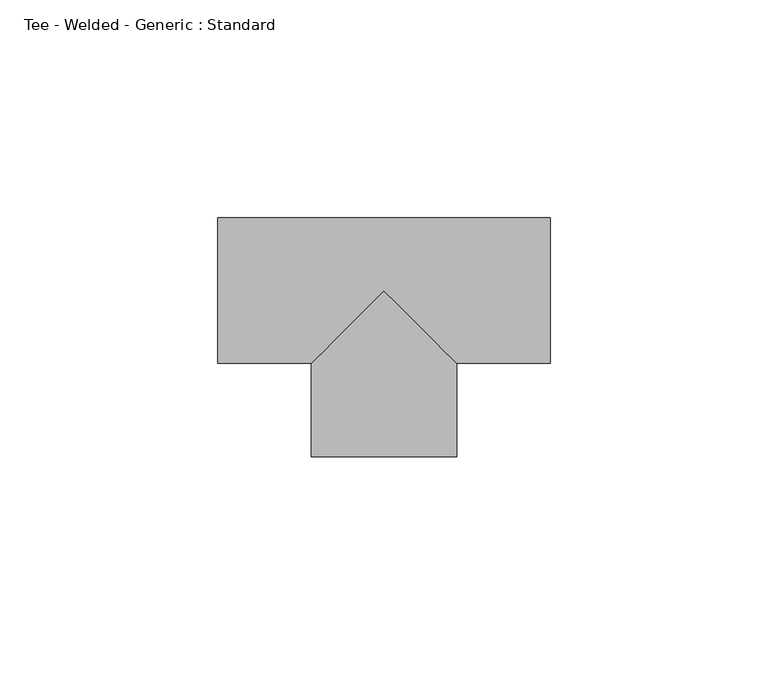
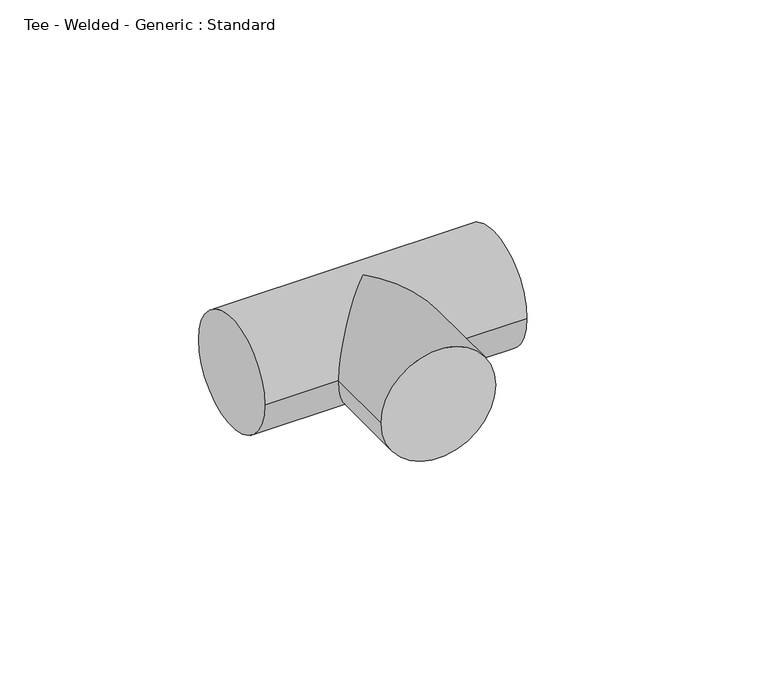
"""IFC4 building model written with IfcOpenShell, lengths in millimetres: pipe fitting geometry, Tee - Welded - Generic : Standard."""

from ifc_helpers import new_model, si_unit, frame, origin, place, context, project, spatial, circle_curve, ellipse_curve, source, transform, mapped, element, save
from ifc_brep_helpers import plane_surface, cylinder_surface, advanced_brep


def tee_welded_generic_standard_ab12e525(model_context):
    return source(origin(), model_context, "Body", "AdvancedBrep", [
        advanced_brep(
        [(-38.1, -16.66875, 0.0), (-38.1, 16.66875, 0.0), (38.1, -16.66875, 0.0), (38.1, 16.66875, 0.0), (-16.6697924, -16.66875, 0.0), (0.0, 0.0, 16.66875), (16.6677077, -16.66875, 0.0), (0.0, 0.0, -16.66875), (-16.6711325, -38.0989576, 0.0), (16.6663674, -38.1010423, 0.0)],
        [
            (0, 1, circle_curve(frame((-38.1, 0.0, 0.0), z_axis=(-1.0, 0.0, 0.0), x_axis=(0.0, 1.0, 0.0)), 16.66875)),
            (1, 0, circle_curve(frame((-38.1, 0.0, 0.0), z_axis=(-1.0, 0.0, 0.0), x_axis=(0.0, 1.0, 0.0)), 16.66875)),
            (2, 3, circle_curve(frame((38.1, 0.0, 0.0), z_axis=(1.0, 0.0, 0.0), x_axis=(0.0, 1.0, 0.0)), 16.66875)),
            (3, 2, circle_curve(frame((38.1, 0.0, 0.0), z_axis=(1.0, 0.0, 0.0), x_axis=(0.0, 1.0, 0.0)), 16.66875)),
            (0, 4),
            (4, 5, ellipse_curve(frame((0.0, 0.0, 0.0), z_axis=(-0.7070846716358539, 0.7071288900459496, 0.0), x_axis=(-0.7071288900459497, -0.7070846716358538, 0.0)), 23.5739094, 16.66875)),
            (5, 6, ellipse_curve(frame((0.0, 0.0, 0.0), z_axis=(0.7071288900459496, 0.707084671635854, 0.0), x_axis=(-0.7070846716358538, 0.7071288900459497, 0.0)), 23.5724353, 16.66875)),
            (6, 2),
            (3, 1),
            (6, 7, ellipse_curve(frame((0.0, 0.0, 0.0), z_axis=(0.7071288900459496, 0.707084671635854, 0.0), x_axis=(-0.7070846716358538, 0.7071288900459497, 0.0)), 23.5724353, 16.66875)),
            (7, 4, ellipse_curve(frame((0.0, 0.0, 0.0), z_axis=(-0.7070846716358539, 0.7071288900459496, 0.0), x_axis=(-0.7071288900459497, -0.7070846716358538, 0.0)), 23.5739094, 16.66875)),
            (8, 9, circle_curve(frame((-0.0023826, -38.0999999, 0.0), z_axis=(-6.253427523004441e-05, -0.9999999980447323, 0.0), x_axis=(0.9999999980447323, -6.253427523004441e-05, 0.0)), 16.66875)),
            (9, 8, circle_curve(frame((-0.0023826, -38.0999999, 0.0), z_axis=(-6.253427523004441e-05, -0.9999999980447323, 0.0), x_axis=(0.9999999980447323, -6.253427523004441e-05, 0.0)), 16.66875)),
            (9, 6),
            (4, 8),
        ],
        [
            plane_surface(frame((-38.1, 0.0, 0.0), z_axis=(-1.0, 0.0, 0.0), x_axis=(0.0, 0.0, 1.0))),
            plane_surface(frame((38.1, 0.0, 0.0), z_axis=(1.0, 0.0, 0.0), x_axis=(0.0, 0.0, 1.0))),
            cylinder_surface(frame((-38.1, 0.0, 0.0), z_axis=(-1.0, 0.0, 0.0), x_axis=(0.0, 1.0, 0.0)), 16.66875),
            plane_surface(frame((-0.0023826, -38.0999999, 0.0), z_axis=(-6.253427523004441e-05, -0.9999999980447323, 0.0), x_axis=(0.0, 0.0, 1.0))),
            cylinder_surface(frame((0.0, 0.0, 0.0), z_axis=(6.253427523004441e-05, 0.9999999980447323, 0.0), x_axis=(0.9999999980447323, -6.253427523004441e-05, 0.0)), 16.66875),
        ],
        [
            (0, [[1, 2]]),
            (1, [[3, 4]]),
            (2, [[-1, 5, 6, 7, 8, -4, 9]]),
            (2, [[-2, -9, -3, -8, 10, 11, -5]]),
            (3, [[12, 13]]),
            (4, [[-13, 14, -7, -6, 15]]),
            (4, [[-12, -15, -11, -10, -14]]),
        ],
    ),
    ])


if __name__ == "__main__":
    model = new_model("IFC4")
    model_context = context("Model", 3, world=origin())
    ifc_project = project(units=[si_unit("LENGTHUNIT", "METRE", prefix="MILLI")], contexts=[model_context])
    site = spatial("IfcSite", under=ifc_project)
    building = spatial("IfcBuilding", under=site)
    placement = place(None, origin())
    tee_welded_generic_standard_shape = tee_welded_generic_standard_ab12e525(model_context)
    element("IfcPipeFitting", 1, ObjectType="Tee - Welded - Generic : Standard", at=placement, inside=building, context=model_context, shape_type="MappedRepresentation", body=[
        mapped(tee_welded_generic_standard_shape, transform((0.0, 0.0, 0.0), x_axis=(1.0, 0.0, 0.0), y_axis=(0.0, 1.0, 0.0), z_axis=(0.0, 0.0, 1.0))),
    ])
    save(model, "model.ifc")
